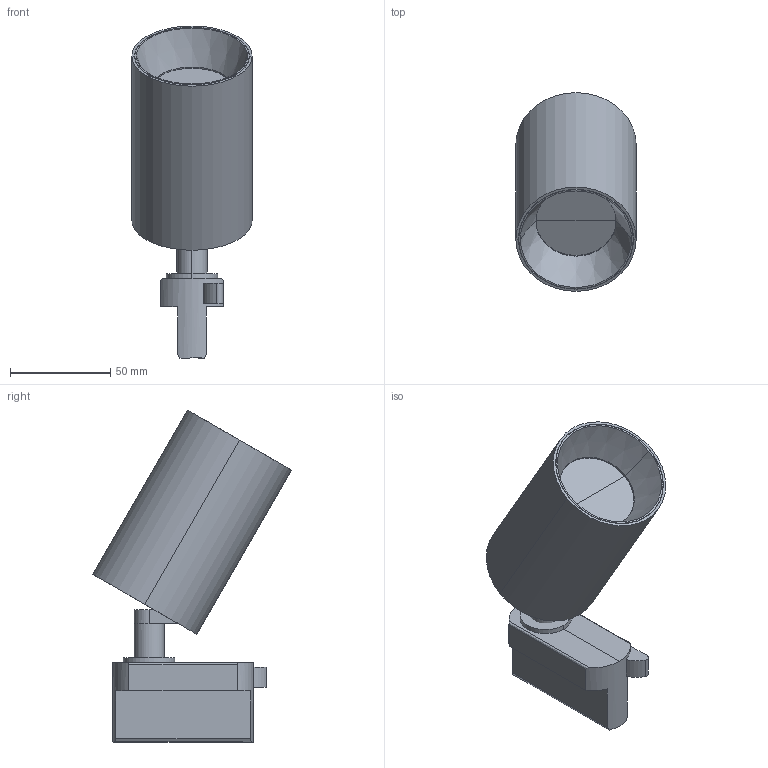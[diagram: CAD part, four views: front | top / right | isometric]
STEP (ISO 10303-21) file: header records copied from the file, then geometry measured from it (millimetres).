
FILE_DESCRIPTION(/* description */ (''),/* implementation_level */ '2;1');
FILE_NAME(/* name */ '43770_3d.step',/* time_stamp */ '2024-10-29T13:12:16+01:00',/* author */ ('RenataManzini'),/* organization */ (''),/* preprocessor_version */ 'ST-DEVELOPER v20',/* originating_system */ 'AutoCAD Mechanical',/* authorisation */ '');
FILE_SCHEMA (('AUTOMOTIVE_DESIGN { 1 0 10303 214 3 1 1 }'));
Length unit declared in the file: millimetre
Products named in the file (2): Product; 43720_43721_43724_43725 - STAN-459004-_3D_
Assembly tree (1 placements, depth 2):
  Product
    43720_43721_43724_43725 - STAN-459004-_3D_
Bounding box: 60 x 99.21 x 165.59 mm (x, y, z)
Volume: 147032.8 mm3; surface area: 71952.8 mm2
Topology: 8 solids, 9 shells, 95 faces, 206 edges, 125 vertices
Faces by surface type: plane 51, cylinder 33, cone 7, bspline 4
Entity records: 2997 total; most frequent: CARTESIAN_POINT 847, DIRECTION 476, ORIENTED_EDGE 402, EDGE_CURVE 203, AXIS2_PLACEMENT_3D 186, VERTEX_POINT 120, LINE 104, VECTOR 104
